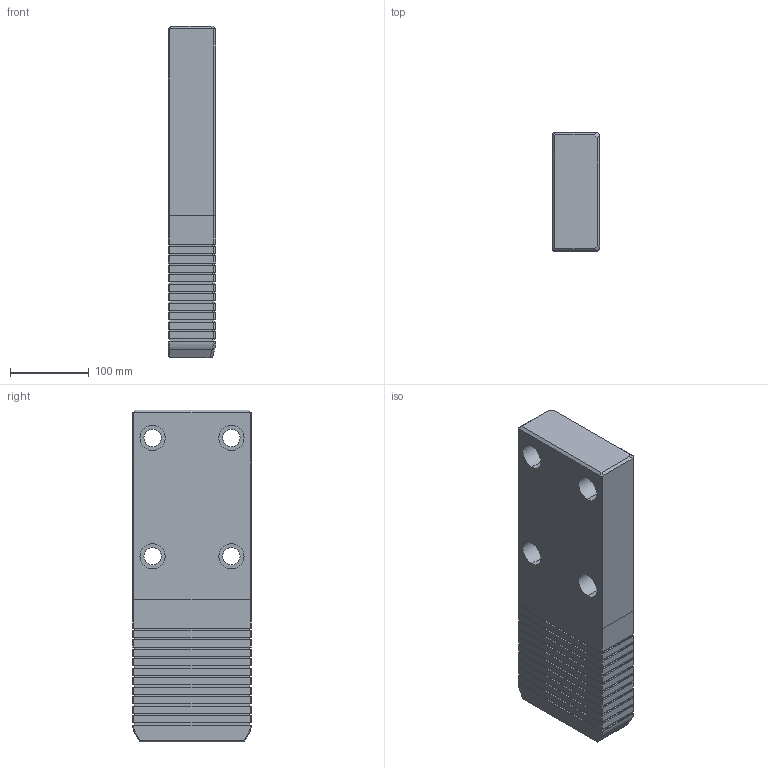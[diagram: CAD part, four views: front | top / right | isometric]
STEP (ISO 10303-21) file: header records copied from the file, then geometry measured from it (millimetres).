
FILE_DESCRIPTION((''),'2;1');
FILE_NAME('','2010-08-30T13:14:28+09:00',('misumi'),(''),'M/STEP i/f 1R2-14','CADmeister v5.1','');
FILE_SCHEMA(('AUTOMOTIVE_DESIGN'));
Length unit declared in the file: millimetre
Products named in the file (1): GWBZ150-420
Bounding box: 60 x 150 x 420 mm (x, y, z)
Volume: 3609274.6 mm3; surface area: 220640.4 mm2
Topology: 1 solids, 1 shells, 266 faces, 689 edges, 452 vertices
Faces by surface type: plane 237, cylinder 21, bspline 6, cone 2
Entity records: 8347 total; most frequent: CARTESIAN_POINT 1750, ORIENTED_EDGE 1378, DIRECTION 1233, EDGE_CURVE 689, LINE 631, VECTOR 631, VERTEX_POINT 452, AXIS2_PLACEMENT_3D 301
